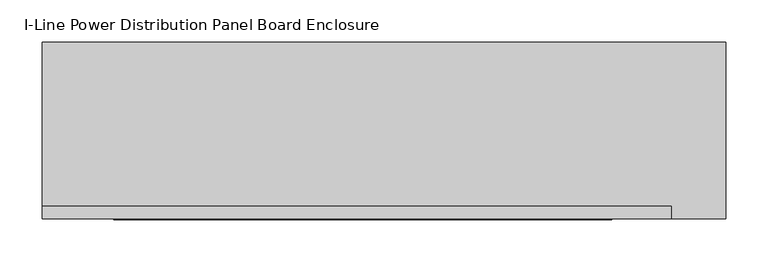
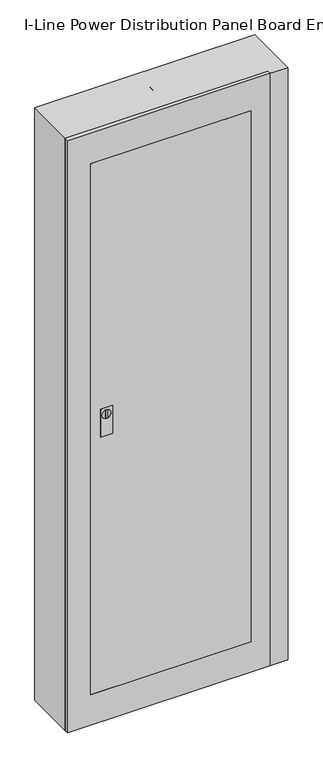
"""IFC4 building model written with IfcOpenShell, lengths in millimetres: proxy geometry, I-Line_Power_Distribution_Panel_Board_Enclosure_MDP-100_BIM_Model : I-Line Power Distribution Panel Board Enclosure."""

import ifcopenshell
import ifcopenshell.guid

model = None  # the IFC model being written
_history = None  # IfcOwnerHistory: only IFC2X3 demands one
_inside = {}  # id of a spatial element -> (the spatial element, [elements in it])
_under = {}  # id of a project, library or spatial element -> (it, [spatial elements below it])
_declared = {}  # id of a project -> (the project, [libraries it declares])
_typed = {}  # id of a type object -> (the type object, [elements of that type])
_made_of = {}  # id of a material, layer set ... -> (it, [elements and type objects made of it])


def new_model(schema):
    """Start an empty IFC model of exactly this schema.

    Asked for "IFC4X3", IfcOpenShell would pick the latest addendum, in which some entities
    have other attributes; the version numbers below select the first issue.
    IFC2X3 requires an IfcOwnerHistory on every rooted entity: one is made here for all.
    """
    global model, _history
    if schema == "IFC4X3":
        model = ifcopenshell.file(schema_version=(4, 3, 0, 0))
    else:
        model = ifcopenshell.file(schema=schema)
    _inside.clear()
    _under.clear()
    _declared.clear()
    _typed.clear()
    _made_of.clear()
    _history = None
    if model.schema == "IFC2X3":
        org = make("IfcOrganization", Name="unknown")
        user = make(
            "IfcPersonAndOrganization",
            ThePerson=make("IfcPerson", FamilyName="unknown"),
            TheOrganization=org,
        )
        app = make(
            "IfcApplication",
            ApplicationDeveloper=org,
            Version="unknown",
            ApplicationFullName="unknown",
            ApplicationIdentifier="unknown",
        )
        _history = make(
            "IfcOwnerHistory",
            OwningUser=user,
            OwningApplication=app,
            ChangeAction="ADDED",
            CreationDate=0,
        )
    return model


def make(cls, **values):
    """One entity of the class cls with the attributes given. An attribute that is None is left unset."""
    return model.create_entity(
        cls, **{name: value for name, value in values.items() if value is not None}
    )


def rooted(cls, **values):
    """An entity with a GlobalId (a new one), such as an element, a storey or a relation."""
    return make(cls, GlobalId=ifcopenshell.guid.new(), OwnerHistory=_history, **values)


def si_unit(unit_type, name, prefix=None):
    """IfcSIUnit, for example si_unit("LENGTHUNIT", "METRE", prefix="MILLI")."""
    return make("IfcSIUnit", UnitType=unit_type, Prefix=prefix, Name=name)


def assignment(units):
    """IfcUnitAssignment: the units of a project."""
    return None if units is None else make("IfcUnitAssignment", Units=units)


def point(xyz):
    """IfcCartesianPoint."""
    return None if xyz is None else make("IfcCartesianPoint", Coordinates=xyz)


def direction(xyz):
    """IfcDirection."""
    return None if xyz is None else make("IfcDirection", DirectionRatios=xyz)


def frame(location, z_axis=None, x_axis=None):
    """IfcAxis2Placement3D, a coordinate frame: its origin and axes. An axis left out is left unset."""
    return make(
        "IfcAxis2Placement3D",
        Location=point(location),
        Axis=direction(z_axis),
        RefDirection=direction(x_axis),
    )


def frame_2d(location, x_axis=None):
    """IfcAxis2Placement2D, a coordinate frame in the plane: its origin and x axis."""
    return make(
        "IfcAxis2Placement2D", Location=point(location), RefDirection=direction(x_axis)
    )


def origin():
    """The frame at (0, 0, 0) with its axes left unset."""
    return frame((0.0, 0.0, 0.0))


def origin_with_axes():
    """The frame at (0, 0, 0) with the z axis (0, 0, 1) and the x axis (1, 0, 0) written out."""
    return frame((0.0, 0.0, 0.0), z_axis=(0.0, 0.0, 1.0), x_axis=(1.0, 0.0, 0.0))


def place(relative_to, where):
    """IfcLocalPlacement: puts the frame where relative to a parent placement (None: the world)."""
    return make(
        "IfcLocalPlacement", PlacementRelTo=relative_to, RelativePlacement=where
    )


def context(
    kind, dimensions, precision=None, world=None, true_north=None, identifier=None
):
    """IfcGeometricRepresentationContext, for example the 3D "Model" context."""
    return make(
        "IfcGeometricRepresentationContext",
        ContextIdentifier=identifier,
        ContextType=kind,
        CoordinateSpaceDimension=dimensions,
        Precision=precision,
        WorldCoordinateSystem=world,
        TrueNorth=true_north,
    )


def project(units=None, contexts=None):
    """IfcProject with its units and contexts."""
    return rooted(
        "IfcProject",
        Name="project",
        RepresentationContexts=contexts,
        UnitsInContext=assignment(units),
    )


def spatial(cls, under=None, at=None, **own):
    """A site, building, storey or space (cls), placed at a placement, below another one or the project."""
    s = rooted(cls, ObjectPlacement=at, **own)
    if under is not None:
        _under.setdefault(under.id(), (under, []))[1].append(s)
    return s


def polyline(points):
    """IfcPolyline through the points."""
    return make("IfcPolyline", Points=[point(p) for p in points])


def circle_curve(where, radius):
    """IfcCircle in the frame where."""
    return make("IfcCircle", Position=where, Radius=radius)


def trimmed(basis, trim1, trim2, sense, master):
    """IfcTrimmedCurve: the piece of a basis curve between two trims."""
    return make(
        "IfcTrimmedCurve",
        BasisCurve=basis,
        Trim1=trim1,
        Trim2=trim2,
        SenseAgreement=sense,
        MasterRepresentation=master,
    )


def segment(curve, same_sense, transition):
    """IfcCompositeCurveSegment."""
    return make(
        "IfcCompositeCurveSegment",
        Transition=transition,
        SameSense=same_sense,
        ParentCurve=curve,
    )


def composite_curve(segments, self_intersect=None):
    """IfcCompositeCurve: segments joined end to end."""
    return make("IfcCompositeCurve", Segments=segments, SelfIntersect=self_intersect)


def outline(outer, holes=None, kind="AREA"):
    """IfcArbitraryClosedProfileDef: a profile drawn as a closed curve; with holes, ...WithVoids."""
    if holes is None:
        return make("IfcArbitraryClosedProfileDef", ProfileType=kind, OuterCurve=outer)
    return make(
        "IfcArbitraryProfileDefWithVoids",
        ProfileType=kind,
        OuterCurve=outer,
        InnerCurves=holes,
    )


def extrude(swept, where, along, depth):
    """IfcExtrudedAreaSolid: the profile swept, set in the frame where, extruded along a direction by depth."""
    return make(
        "IfcExtrudedAreaSolid",
        SweptArea=swept,
        Position=where,
        ExtrudedDirection=direction(along),
        Depth=depth,
    )


def shape(context_of_items, identifier, shape_type, items):
    """IfcShapeRepresentation: the items that make up one representation, for example the "Body"."""
    return make(
        "IfcShapeRepresentation",
        ContextOfItems=context_of_items,
        RepresentationIdentifier=identifier,
        RepresentationType=shape_type,
        Items=items,
    )


def source(mapping_origin, context_of_items, identifier, shape_type, items):
    """IfcRepresentationMap: a shape defined once, which mapped items show again and again."""
    return make(
        "IfcRepresentationMap",
        MappingOrigin=mapping_origin,
        MappedRepresentation=shape(context_of_items, identifier, shape_type, items),
    )


def transform(
    local_origin,
    x_axis=None,
    y_axis=None,
    z_axis=None,
    scale=None,
    scale2=None,
    scale3=None,
    uniform=True,
):
    """IfcCartesianTransformationOperator3D, or its non-uniform kind. x_axis, y_axis, z_axis: its Axis1, 2, 3."""
    if uniform:
        return make(
            "IfcCartesianTransformationOperator3D",
            Axis1=direction(x_axis),
            Axis2=direction(y_axis),
            LocalOrigin=point(local_origin),
            Scale=scale,
            Axis3=direction(z_axis),
        )
    return make(
        "IfcCartesianTransformationOperator3DnonUniform",
        Axis1=direction(x_axis),
        Axis2=direction(y_axis),
        LocalOrigin=point(local_origin),
        Scale=scale,
        Axis3=direction(z_axis),
        Scale2=scale2,
        Scale3=scale3,
    )


def mapped(mapping_source, mapping_target):
    """IfcMappedItem: shows the shape of a source again, moved by a transform."""
    return make(
        "IfcMappedItem", MappingSource=mapping_source, MappingTarget=mapping_target
    )


def made_of(thing, what):
    """Note that an element or type object is made of a material, layer set ...; save() writes the relation."""
    if what is not None:
        _made_of.setdefault(what.id(), (what, []))[1].append(thing)
    return thing


def element(
    cls,
    number,
    at=None,
    inside=None,
    cuts=None,
    type_object=None,
    material=None,
    context=None,
    identifier="Body",
    shape_type=None,
    held_by="IfcProductDefinitionShape",
    body=None,
    shapes=None,
    **own,
):
    """One element of the class cls, such as IfcWall. Its Tag is "e" and its number.

    at: its placement. inside: the storey or other place that contains it. cuts: it is an
    opening in that element (IfcRelVoidsElement). A single representation is given by context,
    identifier, shape_type and body (its items); several are given by shapes. held_by: the class
    of the entity that holds the representations. save() writes the other relations.
    """
    e = rooted(cls, Tag="e%d" % number, ObjectPlacement=at, **own)
    if body is not None:
        shapes = [shape(context, identifier, shape_type, body)]
    if shapes is not None:
        e.Representation = make(held_by, Representations=shapes)
    if inside is not None:
        _inside.setdefault(inside.id(), (inside, []))[1].append(e)
    if cuts is not None:
        rooted(
            "IfcRelVoidsElement", RelatingBuildingElement=cuts, RelatedOpeningElement=e
        )
    if type_object is not None:
        _typed.setdefault(type_object.id(), (type_object, []))[1].append(e)
    return made_of(e, material)


def aggregate(whole, parts):
    """IfcRelAggregates: a whole, such as a stair, and the parts it consists of."""
    return rooted("IfcRelAggregates", RelatingObject=whole, RelatedObjects=parts)


def save(model, path):
    """Write the relations noted so far, then the file.

    IfcRelAggregates (storeys below a building ...), IfcRelContainedInSpatialStructure (elements
    in a storey), IfcRelDefinesByType, IfcRelAssociatesMaterial and IfcRelDeclares: one each for
    every whole, place, type object, material and project.
    """
    for whole, parts in _under.values():
        aggregate(whole, parts)
    for where, things in _inside.values():
        rooted(
            "IfcRelContainedInSpatialStructure",
            RelatedElements=things,
            RelatingStructure=where,
        )
    for kind, things in _typed.values():
        rooted("IfcRelDefinesByType", RelatedObjects=things, RelatingType=kind)
    for what, things in _made_of.values():
        rooted("IfcRelAssociatesMaterial", RelatedObjects=things, RelatingMaterial=what)
    for by, libraries in _declared.values():
        rooted("IfcRelDeclares", RelatingContext=by, RelatedDefinitions=libraries)
    model.write(path)


def i_line_power_distribution_panel_board_enclosure_cbae9e6e(model_context):
    return source(origin(), model_context, "Body", "SweptSolid", [
        extrude(outline(polyline([(29.9355959, 20.4466569), (29.9355959, -19.5533431), (-30.0644041, -19.5533431), (-30.0644041, 20.4466569), (29.9355959, 20.4466569)])), frame((0.0, 0.0, 2309.0), z_axis=(0.0, 0.0, 1.0), x_axis=(1.0, 0.0, 0.0)), (0.0, 0.0, 1.0), 1.0),
        extrude(outline(polyline([(1220.9933328, -241.620244), (1220.9933328, -285.6115289), (1112.0, -285.6115289), (1112.0, -241.620244), (1220.9933328, -241.620244)]), holes=[composite_curve([segment(trimmed(circle_curve(frame_2d((1194.7298791, -263.6240938)), 16.4146586), [point((1194.7298791, -280.0387523))], [point((1194.7298791, -247.2094352))], True, "CARTESIAN"), True, "CONTINUOUS"), segment(trimmed(circle_curve(frame_2d((1194.7298791, -263.6240938)), 16.4146586), [point((1194.7298791, -247.2094352))], [point((1194.7298791, -280.0387523))], True, "CARTESIAN"), True, "CONTINUOUS")], self_intersect=False)]), frame((0.0, -106.0, 0.0), z_axis=(0.0, 1.0, 0.0), x_axis=(0.0, 0.0, 1.0)), (0.0, 0.0, 1.0), 1.0),
        extrude(outline(composite_curve([segment(polyline([(1209.9614329, -267.5636118), (1179.4669633, -267.5636118)]), True, "CONTINUOUS"), segment(trimmed(circle_curve(frame_2d((1213.1619767, -263.6240938)), 33.9245299), [point((1179.4669633, -267.5636118))], [point((1179.4669633, -259.6845757))], False, "CARTESIAN"), True, "CONTINUOUS"), segment(polyline([(1179.4669633, -259.6845757), (1209.9614329, -259.6845757)]), True, "CONTINUOUS"), segment(trimmed(circle_curve(frame_2d((1194.1423953, -263.6240938)), 16.3022009), [point((1209.9614329, -259.6845757))], [point((1209.9614329, -267.5636118))], False, "CARTESIAN"), True, "CONTINUOUS")], self_intersect=False)), frame((0.0, -106.0, 0.0), z_axis=(0.0, 1.0, 0.0), x_axis=(0.0, 0.0, 1.0)), (0.0, 0.0, 1.0), 1.0),
        extrude(outline(polyline([(2311.0, 341.5), (2311.0, -406.5), (0.0, -406.5), (0.0, 341.5), (2311.0, 341.5)]), holes=[polyline([(2191.0, 270.5), (120.0, 270.5), (120.0, -321.5), (2191.0, -321.5), (2191.0, 270.5)])]), frame((0.0, -105.0, 0.0), z_axis=(0.0, 1.0, 0.0), x_axis=(0.0, 0.0, 1.0)), (0.0, 0.0, 1.0), 15.0),
        extrude(outline(polyline([(406.5, 105.0), (406.5, -80.0), (406.5, -105.0), (341.5, -105.0), (341.5, -90.0), (-406.5, -90.0), (-406.5, 105.0), (406.5, 105.0)])), origin_with_axes(), (0.0, 0.0, 1.0), 2311.0),
        extrude(outline(polyline([(270.5, -106.0), (-321.5, -106.0), (-321.5, -105.0), (270.5, -105.0), (270.5, -106.0)])), frame((0.0, 0.0, 120.0), z_axis=(0.0, 0.0, 1.0), x_axis=(1.0, 0.0, 0.0)), (0.0, 0.0, 1.0), 2071.0),
    ])


if __name__ == "__main__":
    model = new_model("IFC4")
    model_context = context("Model", 3, world=origin())
    ifc_project = project(units=[si_unit("LENGTHUNIT", "METRE", prefix="MILLI")], contexts=[model_context])
    site = spatial("IfcSite", under=ifc_project)
    building = spatial("IfcBuilding", under=site)
    placement = place(None, origin())
    i_line_power_distribution_panel_board_enclosure_shape = i_line_power_distribution_panel_board_enclosure_cbae9e6e(model_context)
    element("IfcBuildingElementProxy", 1, Name="I-Line_Power_Distribution_Panel_Board_Enclosure_MDP-100_BIM_Model : I-Line Power Distribution Panel Board Enclosure", ObjectType="I-Line_Power_Distribution_Panel_Board_Enclosure_MDP-100_BIM_Model : I-Line Power Distribution Panel Board Enclosure", at=placement, inside=building, context=model_context, shape_type="MappedRepresentation", body=[
        mapped(i_line_power_distribution_panel_board_enclosure_shape, transform((0.0, 0.0, 0.0), x_axis=(1.0, 0.0, 0.0), y_axis=(0.0, 1.0, 0.0), z_axis=(0.0, 0.0, 1.0))),
    ])
    save(model, "model.ifc")
